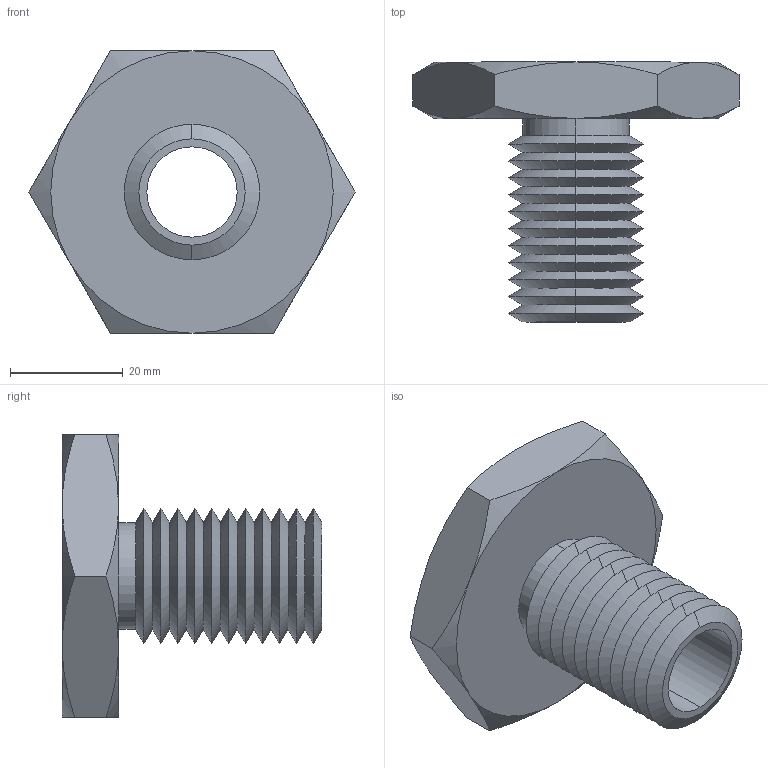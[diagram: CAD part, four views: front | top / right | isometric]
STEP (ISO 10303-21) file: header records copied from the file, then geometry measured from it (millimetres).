
FILE_DESCRIPTION (( 'STEP AP203' ), '1' );
FILE_NAME ('63302.W0024_M16x2.step', '2013-12-08T11:03:29', ( 'User' ), ( '' ), 'SwSTEP 2.0', 'SolidWorks 2009', '' );
FILE_SCHEMA (( 'CONFIG_CONTROL_DESIGN' ));
Length unit declared in the file: millimetre
Products named in the file (1): 63302.W0024_M16x2
Bounding box: 57.73 x 46 x 50 mm (x, y, z)
Volume: 24784.4 mm3; surface area: 12330.4 mm2
Topology: 1 solids, 1 shells, 71 faces, 146 edges, 78 vertices
Faces by surface type: cone 58, plane 9, cylinder 4
Entity records: 2039 total; most frequent: CARTESIAN_POINT 480, DIRECTION 332, ORIENTED_EDGE 292, EDGE_CURVE 146, AXIS2_PLACEMENT_3D 138, VERTEX_POINT 78, EDGE_LOOP 74, ADVANCED_FACE 71
